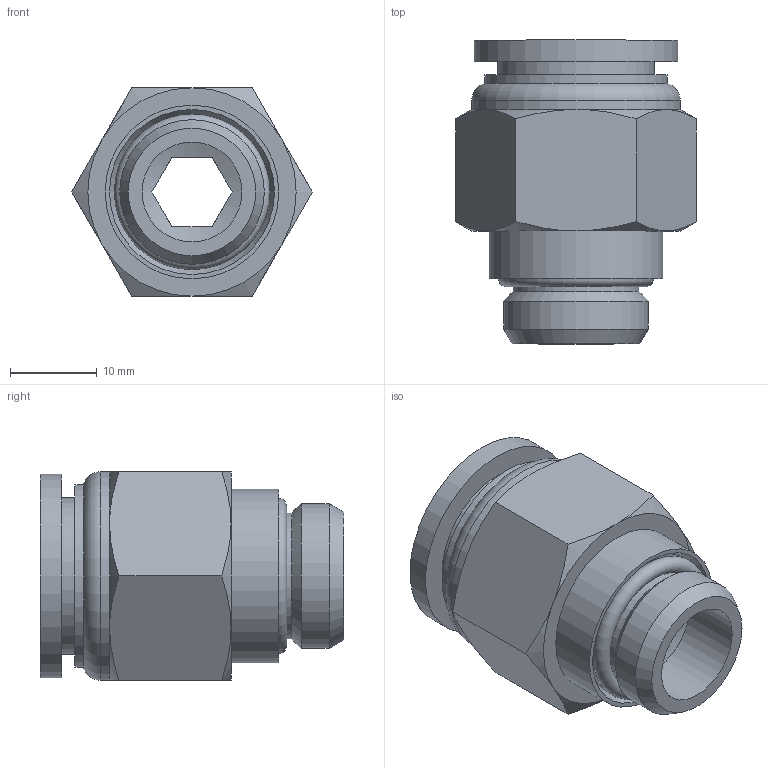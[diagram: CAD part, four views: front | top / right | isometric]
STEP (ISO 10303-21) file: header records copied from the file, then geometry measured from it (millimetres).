
FILE_DESCRIPTION(/* description */ (''),/* implementation_level */ '2;1');
FILE_NAME(/* name */ '\\ANGSRV\AnglifilItalia\_Tecnico\ArchivioUT\_Disegni3D ingombri\DISEGNI 3D per ingombri\RP\RP 51\RP513816.stp',/* time_stamp */ '2019-07-24T15:32:20+02:00',/* author */ ('UfficioTecnico'),/* organization */ (''),/* preprocessor_version */ 'ST-DEVELOPER v18',/* originating_system */ 'Autodesk Inventor 2020',/* authorisation */ '');
FILE_SCHEMA (('AUTOMOTIVE_DESIGN { 1 0 10303 214 3 1 1 }'));
Length unit declared in the file: millimetre
Products named in the file (1): RP513816
Bounding box: 27.71 x 35 x 24 mm (x, y, z)
Volume: 7381.7 mm3; surface area: 5470.5 mm2
Topology: 1 solids, 1 shells, 50 faces, 122 edges, 80 vertices
Faces by surface type: plane 21, cone 16, cylinder 10, torus 3
Full cylindrical faces by diameter (mm): 11.5 x1, 14.5 x2, 16 x1, 16.662 x1, 18 x1, 20 x1, 21 x1, 23.5 x1, 24 x1
Entity records: 1511 total; most frequent: CARTESIAN_POINT 313, DIRECTION 254, ORIENTED_EDGE 244, EDGE_CURVE 122, AXIS2_PLACEMENT_3D 111, VERTEX_POINT 80, CIRCLE 60, EDGE_LOOP 59
